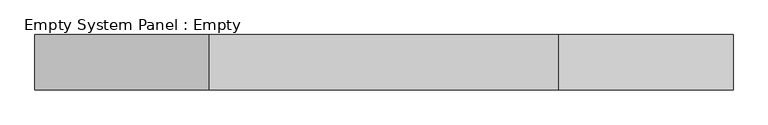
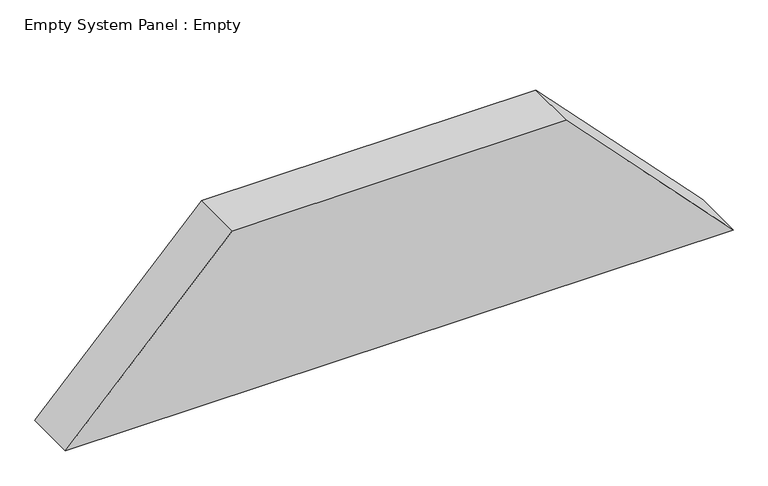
"""IFC4 building model written with IfcOpenShell, lengths in millimetres: plate geometry, Empty System Panel : Empty."""

from ifc_helpers import new_model, si_unit, frame, origin, place, context, project, spatial, polyline, outline, extrude, source, transform, mapped, element, save


def empty_system_panel_empty_f13930bf(model_context):
    return source(origin(), model_context, "Body", "SweptSolid", [
        extrude(outline(polyline([(0.0, -632.2387438), (0.0, 632.2387438), (330.0, 316.1560697), (330.0, -316.1560697), (0.0, -632.2387438)])), frame((0.0, -50.0, 0.0), z_axis=(0.0, 1.0, 0.0), x_axis=(0.0, 0.0, 1.0)), (0.0, 0.0, 1.0), 100.0),
    ])


if __name__ == "__main__":
    model = new_model("IFC4")
    model_context = context("Model", 3, world=origin())
    ifc_project = project(units=[si_unit("LENGTHUNIT", "METRE", prefix="MILLI")], contexts=[model_context])
    site = spatial("IfcSite", under=ifc_project)
    building = spatial("IfcBuilding", under=site)
    placement = place(None, origin())
    empty_system_panel_empty_shape = empty_system_panel_empty_f13930bf(model_context)
    element("IfcPlate", 1, ObjectType="Empty System Panel : Empty", at=placement, inside=building, context=model_context, shape_type="MappedRepresentation", body=[
        mapped(empty_system_panel_empty_shape, transform((0.0, 0.0, 0.0), x_axis=(1.0, 0.0, 0.0), y_axis=(0.0, 1.0, 0.0), z_axis=(0.0, 0.0, 1.0))),
    ])
    save(model, "model.ifc")
